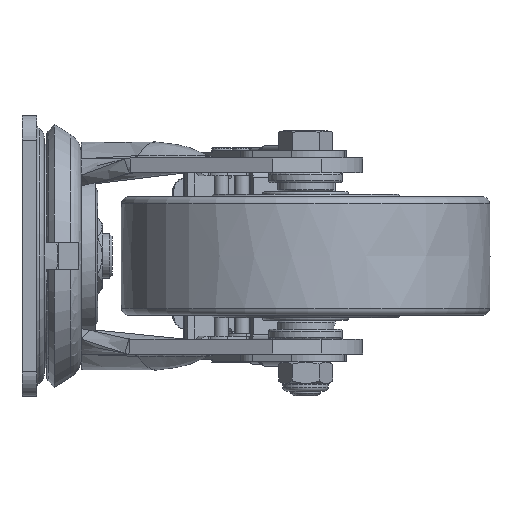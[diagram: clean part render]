
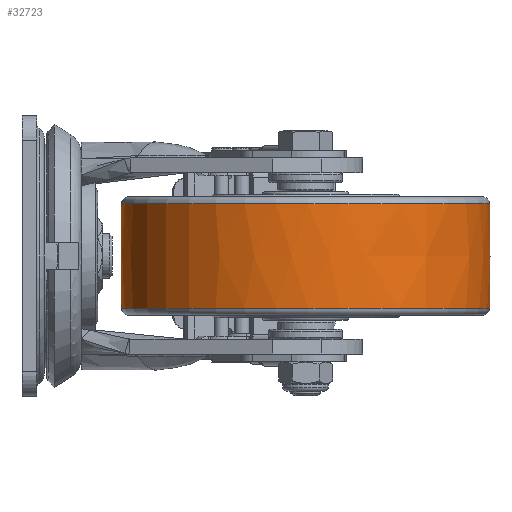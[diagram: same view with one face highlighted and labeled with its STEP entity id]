
A CAD part, left-side view. The second image highlights one B-rep face of the part: STEP entity #32723.
In plain terms, the highlighted free-form (B-spline) face has degree [2, 2] with [3, 9] control points.
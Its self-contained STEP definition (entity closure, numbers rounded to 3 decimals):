
#29=(
BOUNDED_SURFACE()
B_SPLINE_SURFACE(2,2,((#56023,#56024,#56025,#56026,#56027,#56028,#56029,
#56030,#56031),(#56032,#56033,#56034,#56035,#56036,#56037,#56038,#56039,
#56040),(#56041,#56042,#56043,#56044,#56045,#56046,#56047,#56048,#56049)),
 .UNSPECIFIED.,.F.,.T.,.F.)
B_SPLINE_SURFACE_WITH_KNOTS((3,3),(3,2,2,2,3),(-0.03,0.03),
(-3.142,-1.571,0.,1.571,3.142),
 .UNSPECIFIED.)
GEOMETRIC_REPRESENTATION_ITEM()
RATIONAL_B_SPLINE_SURFACE(((1.,0.707,1.,0.707,1.,
0.707,1.,0.707,1.),(1.,0.707,
1.,0.707,1.,0.707,
1.,0.707,1.),(1.,0.707,
1.,0.707,1.,0.707,1.,0.707,1.)))
REPRESENTATION_ITEM('')
SURFACE()
);
#568=(
BOUNDED_CURVE()
B_SPLINE_CURVE(2,(#56054,#56055,#56056),.UNSPECIFIED.,.F.,.F.)
B_SPLINE_CURVE_WITH_KNOTS((3,3),(-0.03,0.03),
 .UNSPECIFIED.)
CURVE()
GEOMETRIC_REPRESENTATION_ITEM()
RATIONAL_B_SPLINE_CURVE((1.,1.,1.))
REPRESENTATION_ITEM('')
);
#9389=FACE_OUTER_BOUND('',#11313,.T.);
#11313=EDGE_LOOP('',(#28170,#28171,#28172,#28173,#28174,#28175));
#12142=CIRCLE('',#35263,74.682);
#12143=CIRCLE('',#35264,74.682);
#12145=CIRCLE('',#35266,74.682);
#12146=CIRCLE('',#35267,74.682);
#15024=VERTEX_POINT('',#56017);
#15025=VERTEX_POINT('',#56018);
#15027=VERTEX_POINT('',#56050);
#15028=VERTEX_POINT('',#56051);
#19414=EDGE_CURVE('',#15024,#15025,#12142,.T.);
#19415=EDGE_CURVE('',#15025,#15024,#12143,.T.);
#19417=EDGE_CURVE('',#15027,#15028,#12145,.T.);
#19418=EDGE_CURVE('',#15028,#15027,#12146,.T.);
#19419=EDGE_CURVE('',#15028,#15025,#568,.T.);
#28170=ORIENTED_EDGE('',*,*,#19417,.F.);
#28171=ORIENTED_EDGE('',*,*,#19418,.F.);
#28172=ORIENTED_EDGE('',*,*,#19419,.T.);
#28173=ORIENTED_EDGE('',*,*,#19415,.T.);
#28174=ORIENTED_EDGE('',*,*,#19414,.T.);
#28175=ORIENTED_EDGE('',*,*,#19419,.F.);
#32723=ADVANCED_FACE('',(#9389),#29,.F.);
#35263=AXIS2_PLACEMENT_3D('',#56019,#43573,#43574);
#35264=AXIS2_PLACEMENT_3D('',#56020,#43575,#43576);
#35266=AXIS2_PLACEMENT_3D('',#56052,#43579,#43580);
#35267=AXIS2_PLACEMENT_3D('',#56053,#43581,#43582);
#43573=DIRECTION('center_axis',(0.,0.,
1.));
#43574=DIRECTION('ref_axis',(0.652,-0.758,0.));
#43575=DIRECTION('center_axis',(0.,0.,
1.));
#43576=DIRECTION('ref_axis',(0.652,-0.758,0.));
#43579=DIRECTION('center_axis',(0.,0.,
1.));
#43580=DIRECTION('ref_axis',(0.652,-0.758,0.));
#43581=DIRECTION('center_axis',(0.,0.,
1.));
#43582=DIRECTION('ref_axis',(0.652,-0.758,0.));
#56017=CARTESIAN_POINT('',(24.254,-56.915,-21.09));
#56018=CARTESIAN_POINT('',(-81.064,-48.985,-21.09));
#56019=CARTESIAN_POINT('Origin',(-32.37,-105.609,-21.09));
#56020=CARTESIAN_POINT('Origin',(-32.37,-105.609,-21.09));
#56023=CARTESIAN_POINT('Ctrl Pts',(-81.064,-48.985,
-21.09));
#56024=CARTESIAN_POINT('Ctrl Pts',(-137.688,-97.68,
-21.09));
#56025=CARTESIAN_POINT('Ctrl Pts',(-88.994,-154.304,
-21.09));
#56026=CARTESIAN_POINT('Ctrl Pts',(-40.299,-210.928,
-21.09));
#56027=CARTESIAN_POINT('Ctrl Pts',(16.325,-162.233,-21.09));
#56028=CARTESIAN_POINT('Ctrl Pts',(72.949,-113.539,-21.09));
#56029=CARTESIAN_POINT('Ctrl Pts',(24.254,-56.915,-21.09));
#56030=CARTESIAN_POINT('Ctrl Pts',(-24.44,-0.291,
-21.09));
#56031=CARTESIAN_POINT('Ctrl Pts',(-81.064,-48.985,
-21.09));
#56032=CARTESIAN_POINT('Ctrl Pts',(-81.479,-48.503,
0.));
#56033=CARTESIAN_POINT('Ctrl Pts',(-138.585,-97.613,
0.));
#56034=CARTESIAN_POINT('Ctrl Pts',(-89.476,-154.719,
0.));
#56035=CARTESIAN_POINT('Ctrl Pts',(-40.367,-211.824,
0.));
#56036=CARTESIAN_POINT('Ctrl Pts',(16.739,-162.715,0.));
#56037=CARTESIAN_POINT('Ctrl Pts',(73.845,-113.606,0.));
#56038=CARTESIAN_POINT('Ctrl Pts',(24.736,-56.5,0.));
#56039=CARTESIAN_POINT('Ctrl Pts',(-24.373,0.606,0.));
#56040=CARTESIAN_POINT('Ctrl Pts',(-81.479,-48.503,
0.));
#56041=CARTESIAN_POINT('Ctrl Pts',(-81.064,-48.985,
21.09));
#56042=CARTESIAN_POINT('Ctrl Pts',(-137.688,-97.68,
21.09));
#56043=CARTESIAN_POINT('Ctrl Pts',(-88.994,-154.304,
21.09));
#56044=CARTESIAN_POINT('Ctrl Pts',(-40.299,-210.928,
21.09));
#56045=CARTESIAN_POINT('Ctrl Pts',(16.325,-162.233,21.09));
#56046=CARTESIAN_POINT('Ctrl Pts',(72.949,-113.539,21.09));
#56047=CARTESIAN_POINT('Ctrl Pts',(24.254,-56.915,21.09));
#56048=CARTESIAN_POINT('Ctrl Pts',(-24.44,-0.291,
21.09));
#56049=CARTESIAN_POINT('Ctrl Pts',(-81.064,-48.985,
21.09));
#56050=CARTESIAN_POINT('',(24.254,-56.915,21.09));
#56051=CARTESIAN_POINT('',(-81.064,-48.985,21.09));
#56052=CARTESIAN_POINT('Origin',(-32.37,-105.609,21.09));
#56053=CARTESIAN_POINT('Origin',(-32.37,-105.609,21.09));
#56054=CARTESIAN_POINT('Ctrl Pts',(-81.064,-48.985,
21.09));
#56055=CARTESIAN_POINT('Ctrl Pts',(-81.479,-48.503,
0.));
#56056=CARTESIAN_POINT('Ctrl Pts',(-81.064,-48.985,
-21.09));
